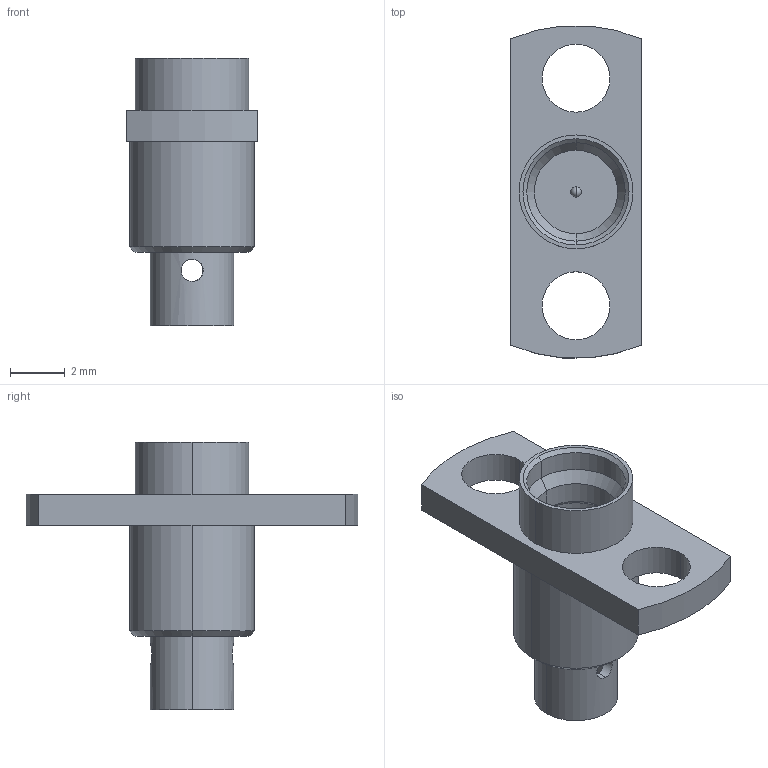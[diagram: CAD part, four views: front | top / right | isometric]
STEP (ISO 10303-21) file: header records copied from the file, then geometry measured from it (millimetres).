
FILE_DESCRIPTION (( 'STEP AP214' ), '1' );
FILE_NAME ('SF1211-6024.STEP', '2018-09-19T13:25:50', ( '' ), ( '' ), 'SwSTEP 2.0', 'SolidWorks 2016', '' );
FILE_SCHEMA (( 'AUTOMOTIVE_DESIGN' ));
Length unit declared in the file: inch
Products named in the file (1): SF1211-6024
Bounding box: 4.78 x 12.15 x 9.8 mm (x, y, z)
Volume: 131.5 mm3; surface area: 301.5 mm2
Topology: 1 solids, 1 shells, 54 faces, 120 edges, 73 vertices
Faces by surface type: cylinder 28, cone 12, plane 10, torus 2, sphere 2
Entity records: 2265 total; most frequent: CARTESIAN_POINT 318, DIRECTION 284, ORIENTED_EDGE 236, AXIS2_PLACEMENT_3D 119, EDGE_CURVE 118, VERTEX_POINT 73, EDGE_LOOP 69, CIRCLE 64
